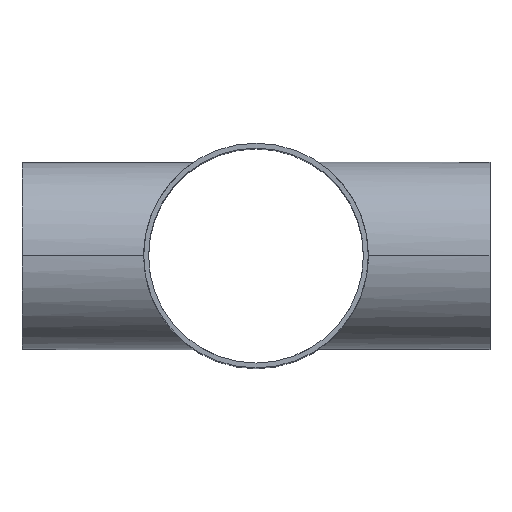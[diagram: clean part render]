
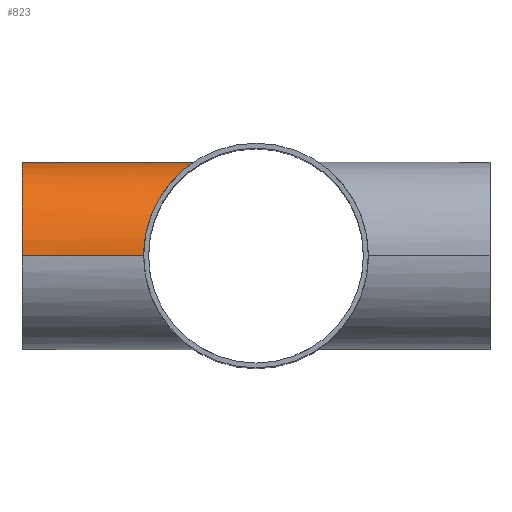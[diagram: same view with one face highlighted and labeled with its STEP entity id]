
A CAD part, top view. The second image highlights one B-rep face of the part: STEP entity #823.
In plain terms, the highlighted cylindrical face has radius 31.75 mm (diameter 63.5 mm), a partial arc.
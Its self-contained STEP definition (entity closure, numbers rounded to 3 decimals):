
#3 = CARTESIAN_POINT ( 'NONE',  ( -37.099, 8.692, -30.542 ) ) ;
#13 = CARTESIAN_POINT ( 'NONE',  ( -35.196, 14.623, -28.201 ) ) ;
#18 = CARTESIAN_POINT ( 'NONE',  ( -36.255, 11.759, -29.511 ) ) ;
#28 = CYLINDRICAL_SURFACE ( 'NONE', #489, 31.75 ) ;
#53 = CARTESIAN_POINT ( 'NONE',  ( -35.571, 13.689, -28.667 ) ) ;
#58 = CARTESIAN_POINT ( 'NONE',  ( -38.1, 0., 31.75 ) ) ;
#62 = CARTESIAN_POINT ( 'NONE',  ( -36.564, 10.762, -29.89 ) ) ;
#70 = CARTESIAN_POINT ( 'NONE',  ( -36.972, 9.217, -30.387 ) ) ;
#135 = CARTESIAN_POINT ( 'NONE',  ( -79.375, 0., -31.75 ) ) ;
#137 = VERTEX_POINT ( 'NONE', #609 ) ;
#141 = ORIENTED_EDGE ( 'NONE', *, *, #625, .F. ) ;
#150 = CARTESIAN_POINT ( 'NONE',  ( -37.331, 7.636, -30.823 ) ) ;
#186 = VECTOR ( 'NONE', #497, 1000. ) ;
#198 = EDGE_LOOP ( 'NONE', ( #539, #604, #141, #813 ) ) ;
#230 = CARTESIAN_POINT ( 'NONE',  ( -79.375, 0., 31.75 ) ) ;
#236 = CARTESIAN_POINT ( 'NONE',  ( -38.1, 0., 31.75 ) ) ;
#297 = DIRECTION ( 'NONE',  ( 0., 0., -1. ) ) ;
#305 = AXIS2_PLACEMENT_3D ( 'NONE', #846, #769, #1029 ) ;
#316 = DIRECTION ( 'NONE',  ( 1., 0., 0. ) ) ;
#343 = B_SPLINE_CURVE_WITH_KNOTS ( 'NONE', 3,
 ( #1043, #875, #959, #802, #150, #3, #70, #62, #18, #53, #13, #1054, #1050, #1040, #1032, #1025, #993, #989, #984, #979, #975, #969, #966, #953, #949, #945, #909, #904, #901, #897, #887, #884, #881, #866, #858, #820, #416, #817, #814, #797, #776, #733, #728, #724, #717, #713, #710, #705, #699, #694, #658, #656, #652, #646, #643, #640, #636, #631, #620, #579, #572, #561, #558, #543, #537, #499, #496, #486, #484, #482, #472, #58 ),
 .UNSPECIFIED., .F., .F.,
 ( 4, 2, 2, 2, 2, 2, 2, 2, 2, 2, 2, 2, 2, 2, 2, 2, 2, 2, 2, 2, 2, 2, 2, 2, 2, 2, 2, 2, 2, 2, 2, 2, 2, 2, 2, 4 ),
 ( 0.106, 0.113, 0.114, 0.116, 0.119, 0.123, 0.124, 0.126, 0.132, 0.136, 0.137, 0.139, 0.146, 0.147, 0.149, 0.152, 0.154, 0.156, 0.159, 0.162, 0.166, 0.169, 0.171, 0.172, 0.176, 0.179, 0.181, 0.182, 0.185, 0.192, 0.194, 0.195, 0.199, 0.202, 0.205, 0.212 ),
 .UNSPECIFIED. ) ;
#348 = VECTOR ( 'NONE', #679, 1000. ) ;
#365 = CARTESIAN_POINT ( 'NONE',  ( -38.1, 0., -31.75 ) ) ;
#369 = FACE_OUTER_BOUND ( 'NONE', #198, .T. ) ;
#416 = CARTESIAN_POINT ( 'NONE',  ( -21.061, 31.75, -1.105 ) ) ;
#417 = LINE ( 'NONE', #135, #186 ) ;
#472 = CARTESIAN_POINT ( 'NONE',  ( -38.1, 2.245, 31.75 ) ) ;
#482 = CARTESIAN_POINT ( 'NONE',  ( -37.903, 4.439, 31.515 ) ) ;
#484 = CARTESIAN_POINT ( 'NONE',  ( -37.338, 7.658, 30.832 ) ) ;
#486 = CARTESIAN_POINT ( 'NONE',  ( -37.103, 8.724, 30.547 ) ) ;
#489 = AXIS2_PLACEMENT_3D ( 'NONE', #556, #316, #297 ) ;
#496 = CARTESIAN_POINT ( 'NONE',  ( -36.56, 10.776, 29.885 ) ) ;
#497 = DIRECTION ( 'NONE',  ( 1., 0., 0. ) ) ;
#499 = CARTESIAN_POINT ( 'NONE',  ( -36.251, 11.769, 29.507 ) ) ;
#524 = EDGE_CURVE ( 'NONE', #137, #1013, #417, .T. ) ;
#534 = CARTESIAN_POINT ( 'NONE',  ( -79.375, 0., 31.75 ) ) ;
#535 = CIRCLE ( 'NONE', #305, 31.75 ) ;
#537 = CARTESIAN_POINT ( 'NONE',  ( -35.568, 13.697, 28.663 ) ) ;
#539 = ORIENTED_EDGE ( 'NONE', *, *, #910, .T. ) ;
#543 = CARTESIAN_POINT ( 'NONE',  ( -35.193, 14.63, 28.197 ) ) ;
#556 = CARTESIAN_POINT ( 'NONE',  ( -79.375, 0., 0. ) ) ;
#558 = CARTESIAN_POINT ( 'NONE',  ( -34.586, 15.989, 27.435 ) ) ;
#561 = CARTESIAN_POINT ( 'NONE',  ( -34.376, 16.436, 27.17 ) ) ;
#572 = CARTESIAN_POINT ( 'NONE',  ( -33.945, 17.308, 26.622 ) ) ;
#579 = CARTESIAN_POINT ( 'NONE',  ( -33.724, 17.734, 26.34 ) ) ;
#604 = ORIENTED_EDGE ( 'NONE', *, *, #1005, .T. ) ;
#609 = CARTESIAN_POINT ( 'NONE',  ( -79.375, 0., -31.75 ) ) ;
#612 = VERTEX_POINT ( 'NONE', #236 ) ;
#620 = CARTESIAN_POINT ( 'NONE',  ( -32.598, 19.813, 24.892 ) ) ;
#625 = EDGE_CURVE ( 'NONE', #1013, #612, #343, .T. ) ;
#631 = CARTESIAN_POINT ( 'NONE',  ( -31.623, 21.319, 23.61 ) ) ;
#636 = CARTESIAN_POINT ( 'NONE',  ( -30.097, 23.378, 21.506 ) ) ;
#640 = CARTESIAN_POINT ( 'NONE',  ( -29.577, 24.03, 20.774 ) ) ;
#643 = CARTESIAN_POINT ( 'NONE',  ( -28.788, 24.96, 19.629 ) ) ;
#646 = CARTESIAN_POINT ( 'NONE',  ( -28.524, 25.262, 19.239 ) ) ;
#652 = CARTESIAN_POINT ( 'NONE',  ( -27.998, 25.843, 18.45 ) ) ;
#656 = CARTESIAN_POINT ( 'NONE',  ( -27.736, 26.125, 18.05 ) ) ;
#658 = CARTESIAN_POINT ( 'NONE',  ( -26.953, 26.939, 16.831 ) ) ;
#679 = DIRECTION ( 'NONE',  ( 1., 0., 0. ) ) ;
#694 = CARTESIAN_POINT ( 'NONE',  ( -26.436, 27.445, 15.995 ) ) ;
#699 = CARTESIAN_POINT ( 'NONE',  ( -25.428, 28.381, 14.267 ) ) ;
#705 = CARTESIAN_POINT ( 'NONE',  ( -24.936, 28.813, 13.375 ) ) ;
#710 = CARTESIAN_POINT ( 'NONE',  ( -24.231, 29.404, 11.989 ) ) ;
#713 = CARTESIAN_POINT ( 'NONE',  ( -24.001, 29.591, 11.519 ) ) ;
#717 = CARTESIAN_POINT ( 'NONE',  ( -23.556, 29.947, 10.559 ) ) ;
#724 = CARTESIAN_POINT ( 'NONE',  ( -23.339, 30.116, 10.069 ) ) ;
#728 = CARTESIAN_POINT ( 'NONE',  ( -22.725, 30.585, 8.585 ) ) ;
#733 = CARTESIAN_POINT ( 'NONE',  ( -22.358, 30.852, 7.572 ) ) ;
#769 = DIRECTION ( 'NONE',  ( 1., 0., 0. ) ) ;
#776 = CARTESIAN_POINT ( 'NONE',  ( -21.741, 31.29, 5.489 ) ) ;
#797 = CARTESIAN_POINT ( 'NONE',  ( -21.491, 31.461, 4.417 ) ) ;
#802 = CARTESIAN_POINT ( 'NONE',  ( -37.436, 7.105, -30.95 ) ) ;
#813 = ORIENTED_EDGE ( 'NONE', *, *, #524, .F. ) ;
#814 = CARTESIAN_POINT ( 'NONE',  ( -21.148, 31.693, 2.208 ) ) ;
#817 = CARTESIAN_POINT ( 'NONE',  ( -21.061, 31.75, 1.104 ) ) ;
#820 = CARTESIAN_POINT ( 'NONE',  ( -21.148, 31.693, -2.208 ) ) ;
#823 = ADVANCED_FACE ( 'NONE', ( #369 ), #28, .T. ) ;
#846 = CARTESIAN_POINT ( 'NONE',  ( -79.375, 0., 0. ) ) ;
#858 = CARTESIAN_POINT ( 'NONE',  ( -21.405, 31.519, -3.864 ) ) ;
#866 = CARTESIAN_POINT ( 'NONE',  ( -21.511, 31.447, -4.41 ) ) ;
#875 = CARTESIAN_POINT ( 'NONE',  ( -38.1, 2.245, -31.75 ) ) ;
#881 = CARTESIAN_POINT ( 'NONE',  ( -21.757, 31.278, -5.484 ) ) ;
#884 = CARTESIAN_POINT ( 'NONE',  ( -21.896, 31.18, -6.013 ) ) ;
#887 = CARTESIAN_POINT ( 'NONE',  ( -22.36, 30.851, -7.579 ) ) ;
#897 = CARTESIAN_POINT ( 'NONE',  ( -22.729, 30.582, -8.594 ) ) ;
#901 = CARTESIAN_POINT ( 'NONE',  ( -23.346, 30.111, -10.083 ) ) ;
#904 = CARTESIAN_POINT ( 'NONE',  ( -23.561, 29.943, -10.572 ) ) ;
#909 = CARTESIAN_POINT ( 'NONE',  ( -24.006, 29.587, -11.529 ) ) ;
#910 = EDGE_CURVE ( 'NONE', #137, #926, #535, .T. ) ;
#926 = VERTEX_POINT ( 'NONE', #230 ) ;
#929 = LINE ( 'NONE', #534, #348 ) ;
#945 = CARTESIAN_POINT ( 'NONE',  ( -24.235, 29.4, -11.998 ) ) ;
#949 = CARTESIAN_POINT ( 'NONE',  ( -25.409, 28.416, -14.304 ) ) ;
#953 = CARTESIAN_POINT ( 'NONE',  ( -26.432, 27.481, -16.021 ) ) ;
#959 = CARTESIAN_POINT ( 'NONE',  ( -37.903, 4.434, -31.515 ) ) ;
#966 = CARTESIAN_POINT ( 'NONE',  ( -27.736, 26.124, -18.052 ) ) ;
#969 = CARTESIAN_POINT ( 'NONE',  ( -27.999, 25.843, -18.452 ) ) ;
#975 = CARTESIAN_POINT ( 'NONE',  ( -28.525, 25.261, -19.241 ) ) ;
#979 = CARTESIAN_POINT ( 'NONE',  ( -28.789, 24.959, -19.63 ) ) ;
#984 = CARTESIAN_POINT ( 'NONE',  ( -29.578, 24.029, -20.776 ) ) ;
#989 = CARTESIAN_POINT ( 'NONE',  ( -30.098, 23.376, -21.507 ) ) ;
#993 = CARTESIAN_POINT ( 'NONE',  ( -31.625, 21.317, -23.612 ) ) ;
#1005 = EDGE_CURVE ( 'NONE', #926, #612, #929, .T. ) ;
#1013 = VERTEX_POINT ( 'NONE', #365 ) ;
#1025 = CARTESIAN_POINT ( 'NONE',  ( -32.6, 19.809, -24.895 ) ) ;
#1029 = DIRECTION ( 'NONE',  ( 0., 0., -1. ) ) ;
#1032 = CARTESIAN_POINT ( 'NONE',  ( -33.728, 17.727, -26.345 ) ) ;
#1040 = CARTESIAN_POINT ( 'NONE',  ( -33.949, 17.301, -26.627 ) ) ;
#1043 = CARTESIAN_POINT ( 'NONE',  ( -38.1, 0., -31.75 ) ) ;
#1050 = CARTESIAN_POINT ( 'NONE',  ( -34.38, 16.427, -27.175 ) ) ;
#1054 = CARTESIAN_POINT ( 'NONE',  ( -34.59, 15.981, -27.44 ) ) ;
